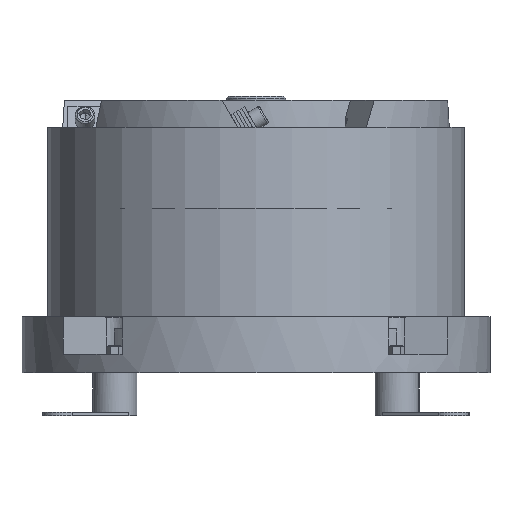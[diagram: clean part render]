
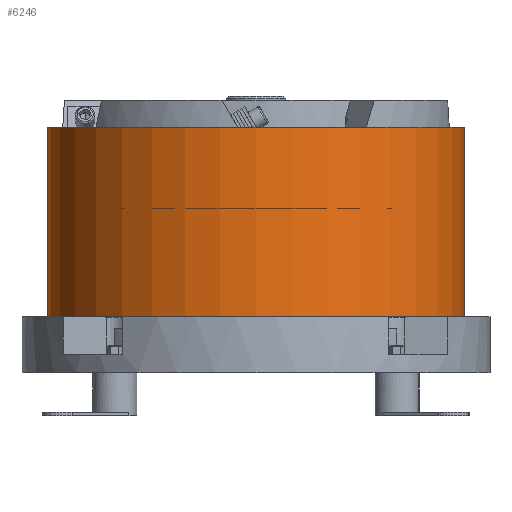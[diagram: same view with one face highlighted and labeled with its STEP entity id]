
A CAD part, front view. The second image highlights one B-rep face of the part: STEP entity #6246.
In plain terms, the highlighted cylindrical face has radius 193 mm (diameter 386 mm), a partial arc.
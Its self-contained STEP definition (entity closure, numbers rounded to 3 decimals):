
#390 = DIRECTION ( 'NONE',  ( 0., 0., -1. ) ) ;
#412 = DIRECTION ( 'NONE',  ( 0., 0., 1. ) ) ;
#424 = CARTESIAN_POINT ( 'NONE',  ( -551.481, 112.006, 15.52 ) ) ;
#427 = ORIENTED_EDGE ( 'NONE', *, *, #16689, .T. ) ;
#932 = AXIS2_PLACEMENT_3D ( 'NONE', #5427, #5605, #2634 ) ;
#1335 = EDGE_CURVE ( 'NONE', #12802, #12413, #3928, .T. ) ;
#1720 = CARTESIAN_POINT ( 'NONE',  ( -165.481, 112.006, -159.48 ) ) ;
#1756 = VERTEX_POINT ( 'NONE', #1720 ) ;
#2634 = DIRECTION ( 'NONE',  ( 1., 0., 0. ) ) ;
#2775 = VECTOR ( 'NONE', #412, 1000. ) ;
#2860 = EDGE_CURVE ( 'NONE', #14559, #12413, #12735, .T. ) ;
#3038 = AXIS2_PLACEMENT_3D ( 'NONE', #6669, #16298, #17556 ) ;
#3438 = CARTESIAN_POINT ( 'NONE',  ( -165.481, 112.006, -159.48 ) ) ;
#3529 = LINE ( 'NONE', #3438, #7254 ) ;
#3928 = CIRCLE ( 'NONE', #17125, 193. ) ;
#5427 = CARTESIAN_POINT ( 'NONE',  ( -358.481, 112.006, -159.48 ) ) ;
#5605 = DIRECTION ( 'NONE',  ( 0., 0., 1. ) ) ;
#5693 = FACE_OUTER_BOUND ( 'NONE', #6880, .T. ) ;
#6246 = ADVANCED_FACE ( 'NONE', ( #5693 ), #13669, .T. ) ;
#6575 = EDGE_CURVE ( 'NONE', #1756, #12802, #3529, .T. ) ;
#6669 = CARTESIAN_POINT ( 'NONE',  ( -358.481, 112.006, -159.48 ) ) ;
#6880 = EDGE_LOOP ( 'NONE', ( #16933, #427, #12344, #12679 ) ) ;
#7074 = CARTESIAN_POINT ( 'NONE',  ( -551.481, 112.006, -159.48 ) ) ;
#7254 = VECTOR ( 'NONE', #13307, 1000. ) ;
#8669 = CARTESIAN_POINT ( 'NONE',  ( -165.481, 112.006, 15.52 ) ) ;
#11084 = CIRCLE ( 'NONE', #3038, 193. ) ;
#11114 = CARTESIAN_POINT ( 'NONE',  ( -358.481, 112.006, 15.52 ) ) ;
#11375 = DIRECTION ( 'NONE',  ( 1., 0., 0. ) ) ;
#12344 = ORIENTED_EDGE ( 'NONE', *, *, #6575, .T. ) ;
#12413 = VERTEX_POINT ( 'NONE', #424 ) ;
#12679 = ORIENTED_EDGE ( 'NONE', *, *, #1335, .T. ) ;
#12735 = LINE ( 'NONE', #7074, #2775 ) ;
#12802 = VERTEX_POINT ( 'NONE', #8669 ) ;
#13307 = DIRECTION ( 'NONE',  ( 0., 0., 1. ) ) ;
#13457 = CARTESIAN_POINT ( 'NONE',  ( -551.481, 112.006, -159.48 ) ) ;
#13669 = CYLINDRICAL_SURFACE ( 'NONE', #932, 193. ) ;
#14559 = VERTEX_POINT ( 'NONE', #13457 ) ;
#16298 = DIRECTION ( 'NONE',  ( 0., 0., 1. ) ) ;
#16689 = EDGE_CURVE ( 'NONE', #14559, #1756, #11084, .T. ) ;
#16933 = ORIENTED_EDGE ( 'NONE', *, *, #2860, .F. ) ;
#17125 = AXIS2_PLACEMENT_3D ( 'NONE', #11114, #390, #11375 ) ;
#17556 = DIRECTION ( 'NONE',  ( 1., 0., 0. ) ) ;
